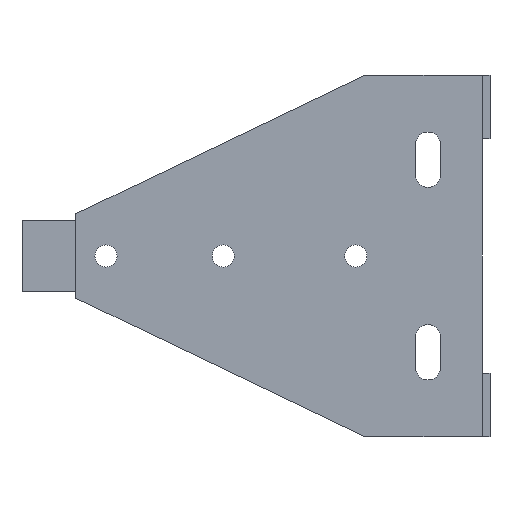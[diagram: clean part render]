
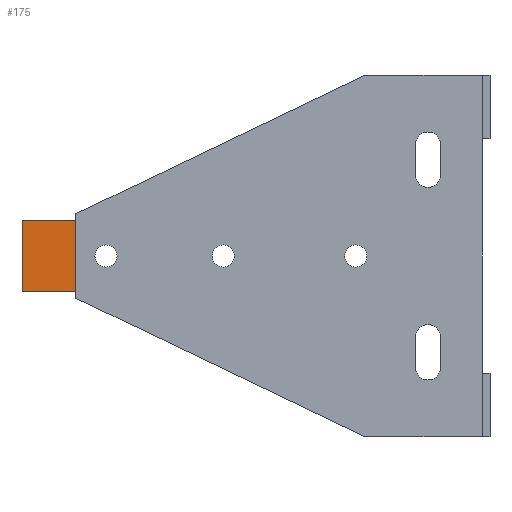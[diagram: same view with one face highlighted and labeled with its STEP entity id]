
A CAD part, left-side view. The second image highlights one B-rep face of the part: STEP entity #175.
In plain terms, the highlighted planar face has unit normal (-1, 0, 0).
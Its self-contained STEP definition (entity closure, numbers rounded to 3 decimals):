
#175 = ADVANCED_FACE ( 'NONE', ( #2395 ), #1936, .F. ) ;
#437 = AXIS2_PLACEMENT_3D ( 'NONE', #1940, #1946, #1947 ) ;
#462 = EDGE_CURVE ( 'NONE', #1667, #1583, #2449, .T. ) ;
#614 = EDGE_CURVE ( 'NONE', #1583, #1561, #2938, .T. ) ;
#698 = EDGE_CURVE ( 'NONE', #1444, #1561, #3050, .T. ) ;
#762 = EDGE_CURVE ( 'NONE', #1667, #1444, #2630, .T. ) ;
#984 = CARTESIAN_POINT ( 'NONE',  ( 1.5, 67.45, 5.9 ) ) ;
#1120 = CARTESIAN_POINT ( 'NONE',  ( 1.5, 58.5, 5.9 ) ) ;
#1142 = CARTESIAN_POINT ( 'NONE',  ( 1.5, 58.5, -5.9 ) ) ;
#1226 = CARTESIAN_POINT ( 'NONE',  ( 1.5, 67.45, -5.9 ) ) ;
#1444 = VERTEX_POINT ( 'NONE', #984 ) ;
#1561 = VERTEX_POINT ( 'NONE', #1120 ) ;
#1583 = VERTEX_POINT ( 'NONE', #1142 ) ;
#1667 = VERTEX_POINT ( 'NONE', #1226 ) ;
#1936 = PLANE ( 'NONE',  #437 ) ;
#1940 = CARTESIAN_POINT ( 'NONE',  ( 1.5, 79.252, 5.9 ) ) ;
#1946 = DIRECTION ( 'NONE',  ( 1., 0., 0. ) ) ;
#1947 = DIRECTION ( 'NONE',  ( 0., 0., -1. ) ) ;
#1992 = CARTESIAN_POINT ( 'NONE',  ( 1.5, 79.252, -5.9 ) ) ;
#1997 = DIRECTION ( 'NONE',  ( 0., -1., 0. ) ) ;
#2290 = EDGE_LOOP ( 'NONE', ( #3571, #3572, #3573, #3574 ) ) ;
#2395 = FACE_OUTER_BOUND ( 'NONE', #2290, .T. ) ;
#2449 = LINE ( 'NONE', #1992, #2455 ) ;
#2455 = VECTOR ( 'NONE', #1997, 1000. ) ;
#2630 = LINE ( 'NONE', #3250, #2631 ) ;
#2631 = VECTOR ( 'NONE', #3249, 1000. ) ;
#2938 = LINE ( 'NONE', #3159, #2939 ) ;
#2939 = VECTOR ( 'NONE', #3158, 1000. ) ;
#3050 = LINE ( 'NONE', #3366, #3059 ) ;
#3059 = VECTOR ( 'NONE', #3361, 1000. ) ;
#3158 = DIRECTION ( 'NONE',  ( 0., 0., 1. ) ) ;
#3159 = CARTESIAN_POINT ( 'NONE',  ( 1.5, 58.5, -7. ) ) ;
#3249 = DIRECTION ( 'NONE',  ( 0., 0., 1. ) ) ;
#3250 = CARTESIAN_POINT ( 'NONE',  ( 1.5, 67.45, 5.9 ) ) ;
#3361 = DIRECTION ( 'NONE',  ( 0., -1., 0. ) ) ;
#3366 = CARTESIAN_POINT ( 'NONE',  ( 1.5, 79.252, 5.9 ) ) ;
#3571 = ORIENTED_EDGE ( 'NONE', *, *, #462, .T. ) ;
#3572 = ORIENTED_EDGE ( 'NONE', *, *, #614, .T. ) ;
#3573 = ORIENTED_EDGE ( 'NONE', *, *, #698, .F. ) ;
#3574 = ORIENTED_EDGE ( 'NONE', *, *, #762, .F. ) ;
